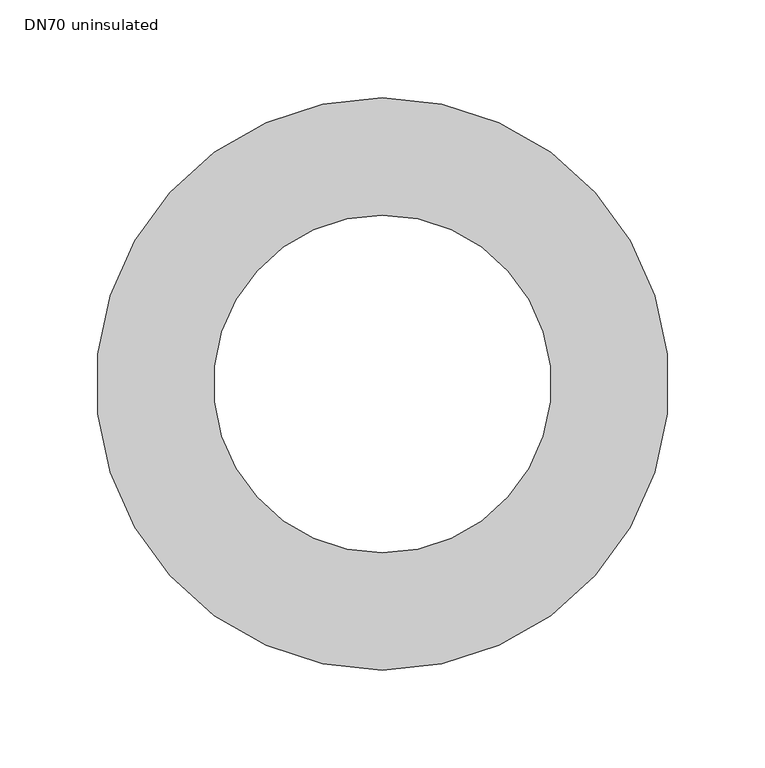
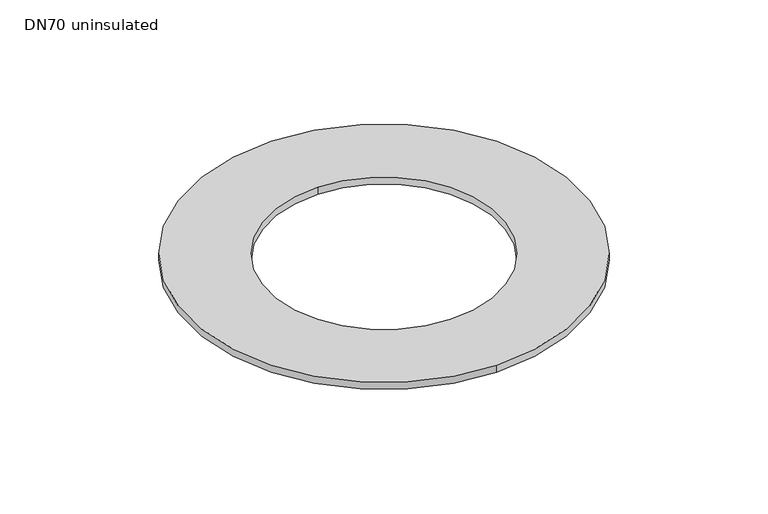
"""IFC4 building model written with IfcOpenShell, lengths in millimetres: sanitary terminal geometry, PF_GEN_spin complete gully fire protection single body_ACO : DN70 uninsulated."""

from ifc_helpers import new_model, si_unit, point, frame, origin, origin_2d, place, context, project, spatial, circle_curve, trimmed, segment, composite_curve, outline, extrude, source, transform, mapped, element, save


def dn70_uninsulated_26a85f5e(model_context):
    return source(origin(), model_context, "Body", "SweptSolid", [
        extrude(outline(composite_curve([segment(trimmed(circle_curve(origin_2d(), 146.25), [point((0.0, -146.25))], [point((0.0, 146.25))], False, "CARTESIAN"), True, "CONTINUOUS"), segment(trimmed(circle_curve(origin_2d(), 146.25), [point((0.0, 146.25))], [point((0.0, -146.25))], False, "CARTESIAN"), True, "CONTINUOUS")], self_intersect=False), holes=[composite_curve([segment(trimmed(circle_curve(origin_2d(), 86.25), [point((0.0, -86.25))], [point((0.0, 86.25))], True, "CARTESIAN"), True, "CONTINUOUS"), segment(trimmed(circle_curve(origin_2d(), 86.25), [point((0.0, 86.25))], [point((0.0, -86.25))], True, "CARTESIAN"), True, "CONTINUOUS")], self_intersect=False)]), frame((0.0, 0.0, 5.0), z_axis=(0.0, 0.0, 1.0), x_axis=(1.0, 0.0, 0.0)), (0.0, 0.0, 1.0), 5.5),
    ])


if __name__ == "__main__":
    model = new_model("IFC4")
    model_context = context("Model", 3, world=origin())
    ifc_project = project(units=[si_unit("LENGTHUNIT", "METRE", prefix="MILLI")], contexts=[model_context])
    site = spatial("IfcSite", under=ifc_project)
    building = spatial("IfcBuilding", under=site)
    placement = place(None, origin())
    dn70_uninsulated_shape = dn70_uninsulated_26a85f5e(model_context)
    element("IfcSanitaryTerminal", 1, ObjectType="PF_GEN_spin complete gully fire protection single body_ACO : DN70 uninsulated", at=placement, inside=building, context=model_context, shape_type="MappedRepresentation", body=[
        mapped(dn70_uninsulated_shape, transform((0.0, 0.0, 0.0), x_axis=(1.0, 0.0, 0.0), y_axis=(0.0, 1.0, 0.0), z_axis=(0.0, 0.0, 1.0))),
    ])
    save(model, "model.ifc")
